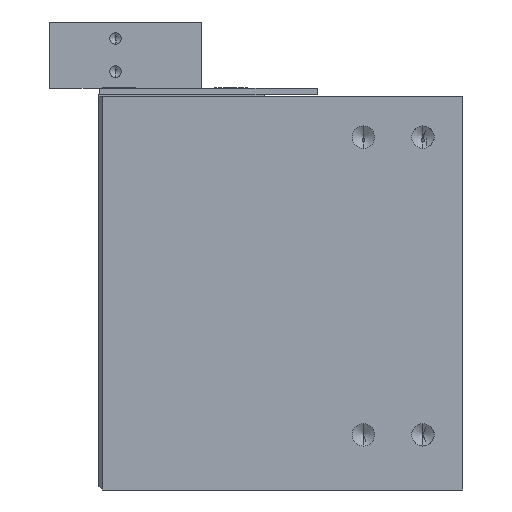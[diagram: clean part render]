
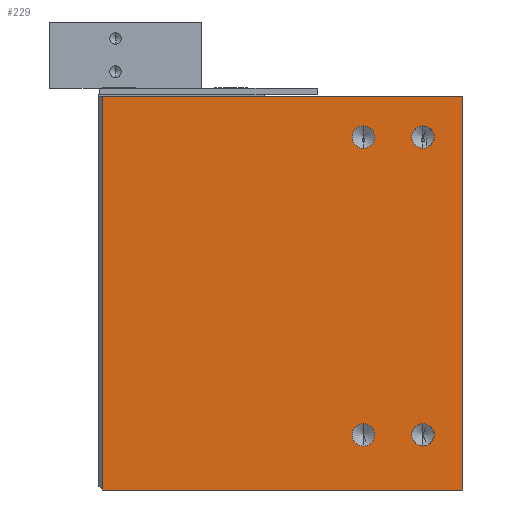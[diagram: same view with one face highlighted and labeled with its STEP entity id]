
A CAD part, left-side view. The second image highlights one B-rep face of the part: STEP entity #229.
In plain terms, the highlighted planar face has unit normal (-1, 0, 0).
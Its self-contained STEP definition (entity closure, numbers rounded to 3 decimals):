
#43 = CIRCLE ( 'NONE', #7412, 3.4 ) ;
#89 = LINE ( 'NONE', #8156, #1465 ) ;
#92 = ORIENTED_EDGE ( 'NONE', *, *, #1187, .F. ) ;
#170 = LINE ( 'NONE', #2869, #3523 ) ;
#229 = ADVANCED_FACE ( 'NONE', ( #2191, #5512, #8177, #4889, #788 ), #4805, .F. ) ;
#266 = CARTESIAN_POINT ( 'NONE',  ( 0., 12., 16.7 ) ) ;
#290 = DIRECTION ( 'NONE',  ( 0., 0., 1. ) ) ;
#387 = EDGE_LOOP ( 'NONE', ( #7622, #5634 ) ) ;
#393 = EDGE_CURVE ( 'NONE', #5996, #3656, #626, .T. ) ;
#451 = DIRECTION ( 'NONE',  ( -1., 0., 0. ) ) ;
#542 = VERTEX_POINT ( 'NONE', #7648 ) ;
#626 = CIRCLE ( 'NONE', #5560, 3.4 ) ;
#708 = DIRECTION ( 'NONE',  ( -1., 0., 0. ) ) ;
#788 = FACE_OUTER_BOUND ( 'NONE', #3697, .T. ) ;
#1082 = CARTESIAN_POINT ( 'NONE',  ( 0., 12., 20.1 ) ) ;
#1187 = EDGE_CURVE ( 'NONE', #3781, #2463, #5296, .T. ) ;
#1323 = VERTEX_POINT ( 'NONE', #6992 ) ;
#1465 = VECTOR ( 'NONE', #7493, 1000. ) ;
#1500 = ORIENTED_EDGE ( 'NONE', *, *, #6771, .T. ) ;
#1612 = EDGE_CURVE ( 'NONE', #2292, #1323, #4293, .T. ) ;
#1785 = EDGE_CURVE ( 'NONE', #542, #7857, #43, .T. ) ;
#1884 = ORIENTED_EDGE ( 'NONE', *, *, #3640, .F. ) ;
#1976 = EDGE_CURVE ( 'NONE', #3676, #3370, #89, .T. ) ;
#2191 = FACE_BOUND ( 'NONE', #8665, .T. ) ;
#2218 = CARTESIAN_POINT ( 'NONE',  ( 0., 12., 103.3 ) ) ;
#2222 = EDGE_CURVE ( 'NONE', #2463, #3781, #6571, .T. ) ;
#2292 = VERTEX_POINT ( 'NONE', #2218 ) ;
#2393 = EDGE_LOOP ( 'NONE', ( #4348, #92 ) ) ;
#2398 = DIRECTION ( 'NONE',  ( 0., 0., 1. ) ) ;
#2432 = CARTESIAN_POINT ( 'NONE',  ( 0., 0., 0. ) ) ;
#2463 = VERTEX_POINT ( 'NONE', #1082 ) ;
#2488 = AXIS2_PLACEMENT_3D ( 'NONE', #7587, #4345, #4304 ) ;
#2514 = DIRECTION ( 'NONE',  ( -1., 0., 0. ) ) ;
#2634 = CARTESIAN_POINT ( 'NONE',  ( 0., 12., 13.3 ) ) ;
#2816 = DIRECTION ( 'NONE',  ( 0., 0., 1. ) ) ;
#2869 = CARTESIAN_POINT ( 'NONE',  ( 0., 108.95, 119. ) ) ;
#2963 = CARTESIAN_POINT ( 'NONE',  ( 0., 0., 119. ) ) ;
#3074 = VERTEX_POINT ( 'NONE', #8229 ) ;
#3117 = ORIENTED_EDGE ( 'NONE', *, *, #5632, .F. ) ;
#3164 = ORIENTED_EDGE ( 'NONE', *, *, #393, .F. ) ;
#3282 = DIRECTION ( 'NONE',  ( -1., 0., 0. ) ) ;
#3370 = VERTEX_POINT ( 'NONE', #2963 ) ;
#3423 = LINE ( 'NONE', #8299, #8082 ) ;
#3427 = AXIS2_PLACEMENT_3D ( 'NONE', #3893, #6630, #5252 ) ;
#3476 = CARTESIAN_POINT ( 'NONE',  ( 0., 0., 119. ) ) ;
#3523 = VECTOR ( 'NONE', #3581, 1000. ) ;
#3581 = DIRECTION ( 'NONE',  ( 0., 0., -1. ) ) ;
#3606 = DIRECTION ( 'NONE',  ( 0., -1., 0. ) ) ;
#3637 = CARTESIAN_POINT ( 'NONE',  ( 0., 30., 16.7 ) ) ;
#3640 = EDGE_CURVE ( 'NONE', #3370, #8093, #3423, .T. ) ;
#3656 = VERTEX_POINT ( 'NONE', #8210 ) ;
#3676 = VERTEX_POINT ( 'NONE', #8168 ) ;
#3697 = EDGE_LOOP ( 'NONE', ( #4422, #1500, #8540, #1884 ) ) ;
#3781 = VERTEX_POINT ( 'NONE', #2634 ) ;
#3870 = DIRECTION ( 'NONE',  ( -1., 0., 0. ) ) ;
#3893 = CARTESIAN_POINT ( 'NONE',  ( 0., 12., 106.7 ) ) ;
#4221 = ORIENTED_EDGE ( 'NONE', *, *, #1785, .F. ) ;
#4267 = CARTESIAN_POINT ( 'NONE',  ( 0., 0., 0. ) ) ;
#4293 = CIRCLE ( 'NONE', #6568, 3.4 ) ;
#4304 = DIRECTION ( 'NONE',  ( 0., 0., 1. ) ) ;
#4345 = DIRECTION ( 'NONE',  ( -1., 0., 0. ) ) ;
#4348 = ORIENTED_EDGE ( 'NONE', *, *, #2222, .F. ) ;
#4422 = ORIENTED_EDGE ( 'NONE', *, *, #1976, .F. ) ;
#4590 = CARTESIAN_POINT ( 'NONE',  ( 0., 30., 110.1 ) ) ;
#4652 = VECTOR ( 'NONE', #3606, 1000. ) ;
#4805 = PLANE ( 'NONE',  #7708 ) ;
#4889 = FACE_BOUND ( 'NONE', #387, .T. ) ;
#4992 = AXIS2_PLACEMENT_3D ( 'NONE', #266, #451, #5185 ) ;
#5185 = DIRECTION ( 'NONE',  ( 0., 0., 1. ) ) ;
#5252 = DIRECTION ( 'NONE',  ( 0., 0., 1. ) ) ;
#5296 = CIRCLE ( 'NONE', #8711, 3.4 ) ;
#5512 = FACE_BOUND ( 'NONE', #2393, .T. ) ;
#5560 = AXIS2_PLACEMENT_3D ( 'NONE', #7201, #708, #2816 ) ;
#5630 = DIRECTION ( 'NONE',  ( 0., 0., -1. ) ) ;
#5632 = EDGE_CURVE ( 'NONE', #3656, #5996, #6735, .T. ) ;
#5634 = ORIENTED_EDGE ( 'NONE', *, *, #1612, .F. ) ;
#5968 = DIRECTION ( 'NONE',  ( 0., 0., 1. ) ) ;
#5996 = VERTEX_POINT ( 'NONE', #4590 ) ;
#6048 = EDGE_CURVE ( 'NONE', #1323, #2292, #6829, .T. ) ;
#6184 = DIRECTION ( 'NONE',  ( 1., 0., 0. ) ) ;
#6219 = LINE ( 'NONE', #4267, #4652 ) ;
#6391 = EDGE_CURVE ( 'NONE', #7857, #542, #8691, .T. ) ;
#6545 = CARTESIAN_POINT ( 'NONE',  ( 0., 12., 106.7 ) ) ;
#6568 = AXIS2_PLACEMENT_3D ( 'NONE', #6545, #2514, #5968 ) ;
#6571 = CIRCLE ( 'NONE', #4992, 3.4 ) ;
#6630 = DIRECTION ( 'NONE',  ( -1., 0., 0. ) ) ;
#6735 = CIRCLE ( 'NONE', #2488, 3.4 ) ;
#6771 = EDGE_CURVE ( 'NONE', #3676, #3074, #170, .T. ) ;
#6829 = CIRCLE ( 'NONE', #3427, 3.4 ) ;
#6992 = CARTESIAN_POINT ( 'NONE',  ( 0., 12., 110.1 ) ) ;
#7201 = CARTESIAN_POINT ( 'NONE',  ( 0., 30., 106.7 ) ) ;
#7362 = DIRECTION ( 'NONE',  ( 0., 0., 1. ) ) ;
#7412 = AXIS2_PLACEMENT_3D ( 'NONE', #7640, #3870, #290 ) ;
#7427 = EDGE_LOOP ( 'NONE', ( #3164, #3117 ) ) ;
#7462 = CARTESIAN_POINT ( 'NONE',  ( 0., 30., 20.1 ) ) ;
#7493 = DIRECTION ( 'NONE',  ( 0., -1., 0. ) ) ;
#7587 = CARTESIAN_POINT ( 'NONE',  ( 0., 30., 106.7 ) ) ;
#7600 = DIRECTION ( 'NONE',  ( 0., 0., -1. ) ) ;
#7622 = ORIENTED_EDGE ( 'NONE', *, *, #6048, .F. ) ;
#7640 = CARTESIAN_POINT ( 'NONE',  ( 0., 30., 16.7 ) ) ;
#7648 = CARTESIAN_POINT ( 'NONE',  ( 0., 30., 13.3 ) ) ;
#7708 = AXIS2_PLACEMENT_3D ( 'NONE', #3476, #6184, #7600 ) ;
#7857 = VERTEX_POINT ( 'NONE', #7462 ) ;
#7980 = ORIENTED_EDGE ( 'NONE', *, *, #6391, .F. ) ;
#8082 = VECTOR ( 'NONE', #5630, 1000. ) ;
#8093 = VERTEX_POINT ( 'NONE', #2432 ) ;
#8155 = CARTESIAN_POINT ( 'NONE',  ( 0., 12., 16.7 ) ) ;
#8156 = CARTESIAN_POINT ( 'NONE',  ( 0., 0., 119. ) ) ;
#8168 = CARTESIAN_POINT ( 'NONE',  ( 0., 108.95, 119. ) ) ;
#8177 = FACE_BOUND ( 'NONE', #7427, .T. ) ;
#8210 = CARTESIAN_POINT ( 'NONE',  ( 0., 30., 103.3 ) ) ;
#8229 = CARTESIAN_POINT ( 'NONE',  ( 0., 108.95, 0. ) ) ;
#8249 = AXIS2_PLACEMENT_3D ( 'NONE', #3637, #8384, #2398 ) ;
#8299 = CARTESIAN_POINT ( 'NONE',  ( 0., 0., 119. ) ) ;
#8384 = DIRECTION ( 'NONE',  ( -1., 0., 0. ) ) ;
#8540 = ORIENTED_EDGE ( 'NONE', *, *, #8705, .T. ) ;
#8665 = EDGE_LOOP ( 'NONE', ( #7980, #4221 ) ) ;
#8691 = CIRCLE ( 'NONE', #8249, 3.4 ) ;
#8705 = EDGE_CURVE ( 'NONE', #3074, #8093, #6219, .T. ) ;
#8711 = AXIS2_PLACEMENT_3D ( 'NONE', #8155, #3282, #7362 ) ;
